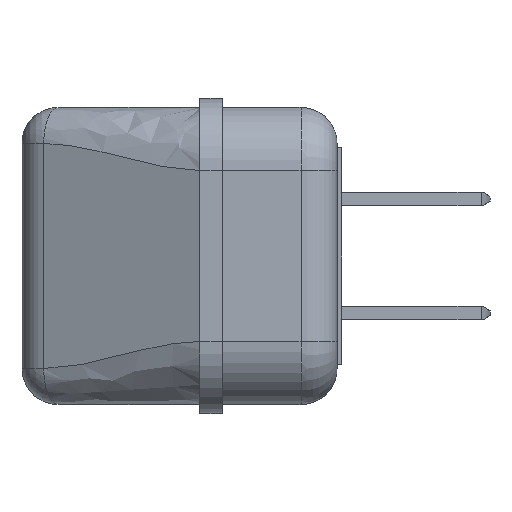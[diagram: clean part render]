
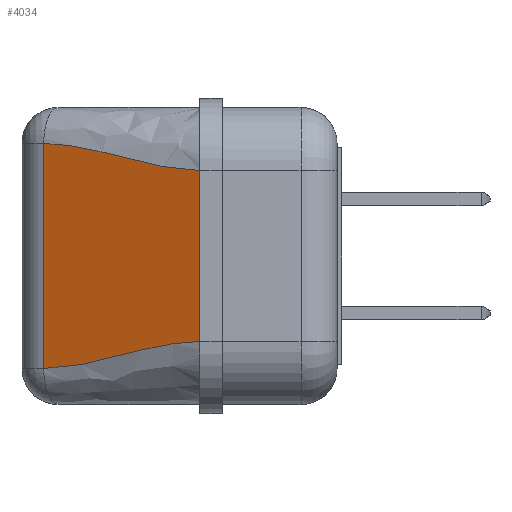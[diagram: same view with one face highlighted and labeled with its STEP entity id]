
A CAD part, left-side view. The second image highlights one B-rep face of the part: STEP entity #4034.
In plain terms, the highlighted planar face has unit normal (-0.918, 0.395, 0).
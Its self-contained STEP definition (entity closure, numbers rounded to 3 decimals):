
#115 = CARTESIAN_POINT ( 'NONE',  ( 7.743, 16.916, -12.441 ) ) ;
#142 = CARTESIAN_POINT ( 'NONE',  ( 3.803, 7.762, -10.452 ) ) ;
#162 = CARTESIAN_POINT ( 'NONE',  ( 3.625, 7.348, -10.352 ) ) ;
#240 = CARTESIAN_POINT ( 'NONE',  ( 7.184, 15.618, -12.271 ) ) ;
#243 = CARTESIAN_POINT ( 'NONE',  ( 8.459, 18.581, -16.5 ) ) ;
#252 = DIRECTION ( 'NONE',  ( 0.395, 0.919, 0. ) ) ;
#436 = CARTESIAN_POINT ( 'NONE',  ( 4.522, 9.434, -10.875 ) ) ;
#454 = CARTESIAN_POINT ( 'NONE',  ( 5.957, 12.767, -11.714 ) ) ;
#479 = CARTESIAN_POINT ( 'NONE',  ( 3.798, 7.752, -10.45 ) ) ;
#559 = CARTESIAN_POINT ( 'NONE',  ( 1.62, 2.691, -9.547 ) ) ;
#572 = ORIENTED_EDGE ( 'NONE', *, *, #1828, .T. ) ;
#576 = CARTESIAN_POINT ( 'NONE',  ( 3.114, 6.162, -10.086 ) ) ;
#588 = PLANE ( 'NONE',  #2072 ) ;
#734 = LINE ( 'NONE', #3295, #4283 ) ;
#779 = VERTEX_POINT ( 'NONE', #904 ) ;
#799 = CARTESIAN_POINT ( 'NONE',  ( 1.996, 3.565, -9.646 ) ) ;
#825 = CARTESIAN_POINT ( 'NONE',  ( 4.001, 8.223, -10.566 ) ) ;
#898 = CARTESIAN_POINT ( 'NONE',  ( 5.671, 12.104, -11.556 ) ) ;
#904 = CARTESIAN_POINT ( 'NONE',  ( 8.459, 18.581, 12.5 ) ) ;
#1005 = CARTESIAN_POINT ( 'NONE',  ( 1., 1.25, -9.499 ) ) ;
#1039 = VERTEX_POINT ( 'NONE', #1005 ) ;
#1072 = CARTESIAN_POINT ( 'NONE',  ( 6.605, 14.274, -12.036 ) ) ;
#1104 = CARTESIAN_POINT ( 'NONE',  ( 5.667, 12.095, -11.554 ) ) ;
#1107 = CARTESIAN_POINT ( 'NONE',  ( 8.459, 18.581, 12.5 ) ) ;
#1126 = CARTESIAN_POINT ( 'NONE',  ( 2.191, 4.017, -9.704 ) ) ;
#1147 = CARTESIAN_POINT ( 'NONE',  ( 3.844, 7.858, -10.476 ) ) ;
#1220 = CARTESIAN_POINT ( 'NONE',  ( 6.744, 14.597, -12.097 ) ) ;
#1410 = DIRECTION ( 'NONE',  ( 0., 0., 1. ) ) ;
#1426 = CARTESIAN_POINT ( 'NONE',  ( 6.613, 14.292, -12.04 ) ) ;
#1452 = CARTESIAN_POINT ( 'NONE',  ( 5.663, 12.084, -11.551 ) ) ;
#1474 = CARTESIAN_POINT ( 'NONE',  ( 2.873, 5.603, -9.973 ) ) ;
#1548 = CARTESIAN_POINT ( 'NONE',  ( 5.7, 12.17, -11.572 ) ) ;
#1752 = CARTESIAN_POINT ( 'NONE',  ( 4.25, 8.803, -10.712 ) ) ;
#1770 = CARTESIAN_POINT ( 'NONE',  ( 5.455, 11.601, -11.434 ) ) ;
#1796 = CARTESIAN_POINT ( 'NONE',  ( 6.6, 14.261, -12.034 ) ) ;
#1828 = EDGE_CURVE ( 'NONE', #1039, #2083, #734, .T. ) ;
#1851 = EDGE_CURVE ( 'NONE', #2083, #779, #3265, .T. ) ;
#1870 = CARTESIAN_POINT ( 'NONE',  ( 3.799, 7.753, -10.45 ) ) ;
#1874 = LINE ( 'NONE', #243, #2048 ) ;
#1887 = CARTESIAN_POINT ( 'NONE',  ( 2.458, 4.638, -9.795 ) ) ;
#1899 = DIRECTION ( 'NONE',  ( 0.919, -0.395, 0. ) ) ;
#2048 = VECTOR ( 'NONE', #3061, 1000. ) ;
#2070 = EDGE_CURVE ( 'NONE', #779, #4219, #1874, .T. ) ;
#2072 = AXIS2_PLACEMENT_3D ( 'NONE', #3953, #1899, #252 ) ;
#2073 = CARTESIAN_POINT ( 'NONE',  ( 6.456, 13.928, -11.969 ) ) ;
#2083 = VERTEX_POINT ( 'NONE', #3317 ) ;
#2094 = CARTESIAN_POINT ( 'NONE',  ( 3.8, 7.757, -10.451 ) ) ;
#2097 = CARTESIAN_POINT ( 'NONE',  ( 3.486, 7.027, 9.5 ) ) ;
#2139 = CARTESIAN_POINT ( 'NONE',  ( 5.737, 12.257, -11.593 ) ) ;
#2215 = CARTESIAN_POINT ( 'NONE',  ( 3.809, 7.776, -10.456 ) ) ;
#2270 = FACE_OUTER_BOUND ( 'NONE', #4125, .T. ) ;
#2396 = CARTESIAN_POINT ( 'NONE',  ( 1.969, 3.501, -9.639 ) ) ;
#2427 = CARTESIAN_POINT ( 'NONE',  ( 2.87, 5.595, -9.971 ) ) ;
#2446 = CARTESIAN_POINT ( 'NONE',  ( 3.82, 7.803, -10.462 ) ) ;
#2466 = CARTESIAN_POINT ( 'NONE',  ( 2.06, 3.714, -9.664 ) ) ;
#2471 = CARTESIAN_POINT ( 'NONE',  ( 1., 1.25, 9.5 ) ) ;
#2547 = CARTESIAN_POINT ( 'NONE',  ( 6.596, 14.253, -12.032 ) ) ;
#2727 = CARTESIAN_POINT ( 'NONE',  ( 1., 1.25, -9.499 ) ) ;
#2751 = CARTESIAN_POINT ( 'NONE',  ( 5.811, 12.429, -11.634 ) ) ;
#2776 = CARTESIAN_POINT ( 'NONE',  ( 3.379, 6.777, -10.218 ) ) ;
#2797 = CARTESIAN_POINT ( 'NONE',  ( 6.632, 14.336, -12.048 ) ) ;
#2875 = CARTESIAN_POINT ( 'NONE',  ( 2.882, 5.623, -9.977 ) ) ;
#3061 = DIRECTION ( 'NONE',  ( 0., 0., -1. ) ) ;
#3081 = CARTESIAN_POINT ( 'NONE',  ( 8.183, 17.939, -12.5 ) ) ;
#3101 = CARTESIAN_POINT ( 'NONE',  ( 2.988, 5.868, -10.025 ) ) ;
#3129 = CARTESIAN_POINT ( 'NONE',  ( 3.893, 7.973, -10.504 ) ) ;
#3141 = ORIENTED_EDGE ( 'NONE', *, *, #3556, .T. ) ;
#3207 = CARTESIAN_POINT ( 'NONE',  ( 5.144, 10.878, -11.25 ) ) ;
#3223 = CARTESIAN_POINT ( 'NONE',  ( 1.31, 1.969, -9.503 ) ) ;
#3265 = B_SPLINE_CURVE_WITH_KNOTS ( 'NONE', 3,
 ( #2471, #2097, #3498, #1107 ),
 .UNSPECIFIED., .F., .F.,
 ( 4, 4 ),
 ( 0., 0.019 ),
 .UNSPECIFIED. ) ;
#3295 = CARTESIAN_POINT ( 'NONE',  ( 1., 1.25, -16.5 ) ) ;
#3317 = CARTESIAN_POINT ( 'NONE',  ( 1., 1.25, 9.5 ) ) ;
#3453 = CARTESIAN_POINT ( 'NONE',  ( 6.893, 14.942, -12.159 ) ) ;
#3498 = CARTESIAN_POINT ( 'NONE',  ( 5.973, 12.804, 12.5 ) ) ;
#3500 = CARTESIAN_POINT ( 'NONE',  ( 8.459, 18.581, -12.5 ) ) ;
#3536 = CARTESIAN_POINT ( 'NONE',  ( 1.951, 3.459, -9.634 ) ) ;
#3553 = CARTESIAN_POINT ( 'NONE',  ( 8.459, 18.581, -12.5 ) ) ;
#3556 = EDGE_CURVE ( 'NONE', #4219, #1039, #3620, .T. ) ;
#3620 = B_SPLINE_CURVE_WITH_KNOTS ( 'NONE', 3,
 ( #3553, #3081, #115, #240, #3453, #1220, #4202, #2797, #1426, #1072, #1796, #2547, #2073, #3801, #454, #2751, #2139, #1548, #3875, #898, #1104, #4128, #1452, #1770, #3207, #436, #1752, #825, #3129, #1147, #2446, #2215, #142, #2094, #1870, #479, #162, #2776, #576, #3101, #4085, #3779, #2875, #1474, #2427, #4108, #1887, #1126, #2466, #799, #2396, #3536, #3735, #559, #3223, #2727 ),
 .UNSPECIFIED., .F., .F.,
 ( 4, 1, 1, 1, 1, 1, 1, 1, 2, 2, 1, 1, 1, 1, 1, 1, 1, 2, 2, 2, 1, 1, 1, 1, 1, 1, 1, 2, 2, 1, 1, 1, 1, 1, 2, 2, 1, 1, 1, 1, 2, 2, 4 ),
 ( 0., 0.125, 0.187, 0.219, 0.234, 0.242, 0.246, 0.248, 0.249, 0.25, 0.312, 0.344, 0.359, 0.367, 0.371, 0.373, 0.374, 0.375, 0.375, 0.5, 0.562, 0.594, 0.609, 0.617, 0.621, 0.623, 0.624, 0.625, 0.625, 0.688, 0.719, 0.734, 0.742, 0.746, 0.748, 0.75, 0.813, 0.844, 0.859, 0.867, 0.871, 0.875, 1. ),
 .UNSPECIFIED. ) ;
#3735 = CARTESIAN_POINT ( 'NONE',  ( 1.942, 3.439, -9.631 ) ) ;
#3744 = ORIENTED_EDGE ( 'NONE', *, *, #1851, .T. ) ;
#3779 = CARTESIAN_POINT ( 'NONE',  ( 2.895, 5.653, -9.983 ) ) ;
#3801 = CARTESIAN_POINT ( 'NONE',  ( 6.236, 13.416, -11.862 ) ) ;
#3875 = CARTESIAN_POINT ( 'NONE',  ( 5.681, 12.126, -11.561 ) ) ;
#3953 = CARTESIAN_POINT ( 'NONE',  ( 0.39, -0.168, 0. ) ) ;
#4034 = ADVANCED_FACE ( 'NONE', ( #2270 ), #588, .F. ) ;
#4052 = ORIENTED_EDGE ( 'NONE', *, *, #2070, .T. ) ;
#4085 = CARTESIAN_POINT ( 'NONE',  ( 2.926, 5.724, -9.997 ) ) ;
#4108 = CARTESIAN_POINT ( 'NONE',  ( 2.699, 5.198, -9.894 ) ) ;
#4125 = EDGE_LOOP ( 'NONE', ( #572, #3744, #4052, #3141 ) ) ;
#4128 = CARTESIAN_POINT ( 'NONE',  ( 5.665, 12.088, -11.552 ) ) ;
#4202 = CARTESIAN_POINT ( 'NONE',  ( 6.67, 14.423, -12.065 ) ) ;
#4219 = VERTEX_POINT ( 'NONE', #3500 ) ;
#4283 = VECTOR ( 'NONE', #1410, 1000. ) ;
